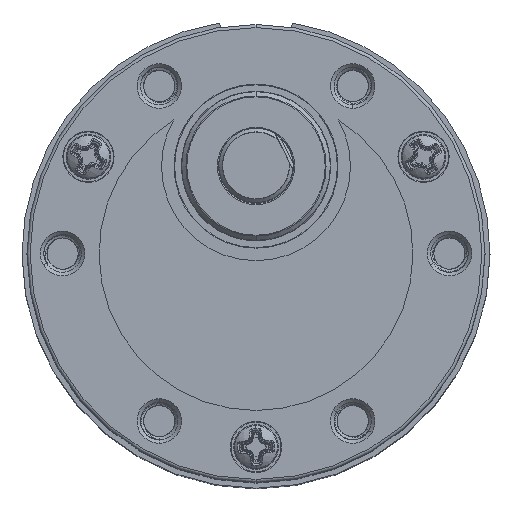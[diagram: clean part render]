
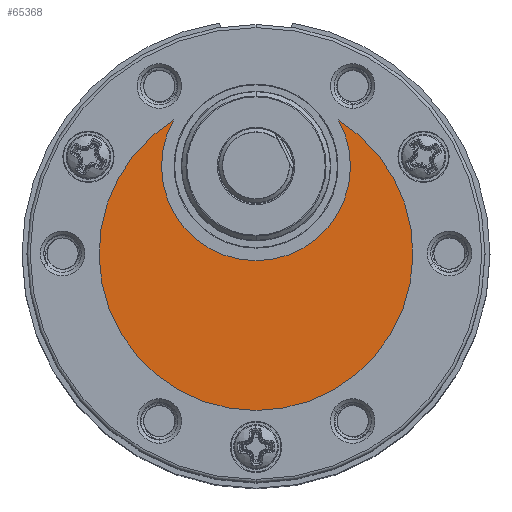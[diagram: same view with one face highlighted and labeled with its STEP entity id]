
A CAD part, top view. The second image highlights one B-rep face of the part: STEP entity #65368.
In plain terms, the highlighted planar face has unit normal (0, 0, 1).
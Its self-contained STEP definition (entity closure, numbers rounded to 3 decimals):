
#891 = CARTESIAN_POINT ( 'NONE',  ( 0., 0., 0. ) ) ;
#3178 = EDGE_LOOP ( 'NONE', ( #43305, #74515 ) ) ;
#9201 = DIRECTION ( 'NONE',  ( 0., 0., 1. ) ) ;
#9406 = CIRCLE ( 'NONE', #56919, 7.57 ) ;
#14792 = EDGE_CURVE ( 'NONE', #80677, #81572, #20445, .T. ) ;
#19803 = CARTESIAN_POINT ( 'NONE',  ( 0., 0., 0. ) ) ;
#20445 = CIRCLE ( 'NONE', #103307, 12.575 ) ;
#20794 = CARTESIAN_POINT ( 'NONE',  ( -6.603, 10.702, 0. ) ) ;
#40570 = AXIS2_PLACEMENT_3D ( 'NONE', #19803, #102450, #53322 ) ;
#40832 = EDGE_CURVE ( 'NONE', #80677, #81572, #9406, .T. ) ;
#40951 = DIRECTION ( 'NONE',  ( 0., 1., 0. ) ) ;
#41088 = CARTESIAN_POINT ( 'NONE',  ( 6.603, 10.702, 0. ) ) ;
#43305 = ORIENTED_EDGE ( 'NONE', *, *, #40832, .F. ) ;
#51363 = DIRECTION ( 'NONE',  ( 0., 1., 0. ) ) ;
#53322 = DIRECTION ( 'NONE',  ( 0., 1., 0. ) ) ;
#56919 = AXIS2_PLACEMENT_3D ( 'NONE', #82414, #75532, #40951 ) ;
#65368 = ADVANCED_FACE ( 'NONE', ( #71486 ), #77163, .T. ) ;
#71486 = FACE_OUTER_BOUND ( 'NONE', #3178, .T. ) ;
#74515 = ORIENTED_EDGE ( 'NONE', *, *, #14792, .T. ) ;
#75532 = DIRECTION ( 'NONE',  ( 0., 0., 1. ) ) ;
#77163 = PLANE ( 'NONE',  #40570 ) ;
#80677 = VERTEX_POINT ( 'NONE', #20794 ) ;
#81572 = VERTEX_POINT ( 'NONE', #41088 ) ;
#82414 = CARTESIAN_POINT ( 'NONE',  ( 0., 7., 0. ) ) ;
#102450 = DIRECTION ( 'NONE',  ( 0., 0., 1. ) ) ;
#103307 = AXIS2_PLACEMENT_3D ( 'NONE', #891, #9201, #51363 ) ;
